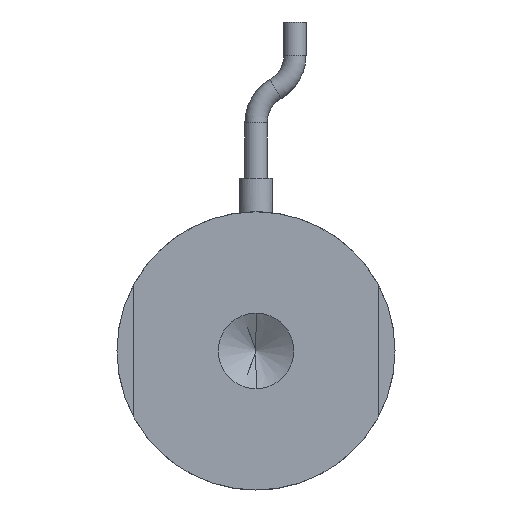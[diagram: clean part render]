
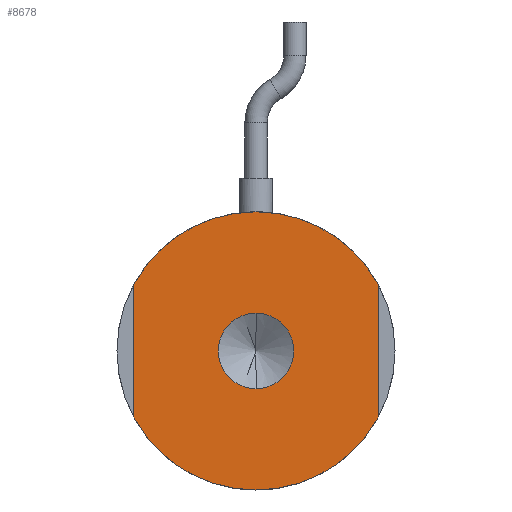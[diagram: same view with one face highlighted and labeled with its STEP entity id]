
A CAD part, front view. The second image highlights one B-rep face of the part: STEP entity #8678.
In plain terms, the highlighted planar face has unit normal (0, -1, 0).
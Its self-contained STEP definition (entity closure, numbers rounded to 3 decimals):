
#97 = DIRECTION ( 'NONE',  ( 0., 0., 1. ) ) ;
#214 = DIRECTION ( 'NONE',  ( 0., 1., 0. ) ) ;
#243 = CARTESIAN_POINT ( 'NONE',  ( 0., 0., 0. ) ) ;
#1031 = CIRCLE ( 'NONE', #18613, 3.4 ) ;
#1158 = CARTESIAN_POINT ( 'NONE',  ( -11., 0., 5.937 ) ) ;
#1917 = VECTOR ( 'NONE', #19139, 1000. ) ;
#1928 = EDGE_LOOP ( 'NONE', ( #12117, #14315 ) ) ;
#1992 = EDGE_CURVE ( 'NONE', #43329, #6384, #31534, .T. ) ;
#2047 = LINE ( 'NONE', #6490, #37797 ) ;
#2211 = EDGE_CURVE ( 'NONE', #37573, #38875, #29406, .T. ) ;
#3403 = CARTESIAN_POINT ( 'NONE',  ( 0., 0., 0. ) ) ;
#3566 = AXIS2_PLACEMENT_3D ( 'NONE', #37014, #16301, #40520 ) ;
#4636 = EDGE_CURVE ( 'NONE', #7298, #31489, #9909, .T. ) ;
#6008 = CIRCLE ( 'NONE', #3566, 12.5 ) ;
#6384 = VERTEX_POINT ( 'NONE', #16529 ) ;
#6490 = CARTESIAN_POINT ( 'NONE',  ( -11., 0., 0. ) ) ;
#6833 = DIRECTION ( 'NONE',  ( 0., 0., 1. ) ) ;
#7133 = DIRECTION ( 'NONE',  ( 0., -1., 0. ) ) ;
#7298 = VERTEX_POINT ( 'NONE', #9602 ) ;
#7434 = DIRECTION ( 'NONE',  ( 0., 0., -1. ) ) ;
#7484 = DIRECTION ( 'NONE',  ( 0., -1., 0. ) ) ;
#7546 = CARTESIAN_POINT ( 'NONE',  ( 0., 0., 0. ) ) ;
#7972 = DIRECTION ( 'NONE',  ( 0., 1., 0. ) ) ;
#8280 = ORIENTED_EDGE ( 'NONE', *, *, #4636, .F. ) ;
#8678 = ADVANCED_FACE ( 'NONE', ( #41909, #16474 ), #25411, .F. ) ;
#9602 = CARTESIAN_POINT ( 'NONE',  ( 11., 0., 5.937 ) ) ;
#9909 = LINE ( 'NONE', #19104, #1917 ) ;
#10633 = VERTEX_POINT ( 'NONE', #29858 ) ;
#11343 = CARTESIAN_POINT ( 'NONE',  ( 0., 0., 0. ) ) ;
#11790 = CARTESIAN_POINT ( 'NONE',  ( 11., 0., -5.937 ) ) ;
#12117 = ORIENTED_EDGE ( 'NONE', *, *, #1992, .F. ) ;
#12945 = CARTESIAN_POINT ( 'NONE',  ( 0., 0., -12.5 ) ) ;
#14315 = ORIENTED_EDGE ( 'NONE', *, *, #38696, .F. ) ;
#14498 = AXIS2_PLACEMENT_3D ( 'NONE', #36834, #16132, #40346 ) ;
#15189 = EDGE_LOOP ( 'NONE', ( #41976, #16550, #34913, #8280, #27920, #19849 ) ) ;
#16132 = DIRECTION ( 'NONE',  ( 0., 1., 0. ) ) ;
#16301 = DIRECTION ( 'NONE',  ( 0., 1., 0. ) ) ;
#16474 = FACE_OUTER_BOUND ( 'NONE', #15189, .T. ) ;
#16529 = CARTESIAN_POINT ( 'NONE',  ( 0., 0., 3.4 ) ) ;
#16550 = ORIENTED_EDGE ( 'NONE', *, *, #36164, .F. ) ;
#17031 = DIRECTION ( 'NONE',  ( 0., 0., 1. ) ) ;
#17676 = EDGE_CURVE ( 'NONE', #31489, #29729, #22818, .T. ) ;
#18613 = AXIS2_PLACEMENT_3D ( 'NONE', #28002, #7133, #31423 ) ;
#19104 = CARTESIAN_POINT ( 'NONE',  ( 11., 0., 0. ) ) ;
#19139 = DIRECTION ( 'NONE',  ( 0., 0., -1. ) ) ;
#19849 = ORIENTED_EDGE ( 'NONE', *, *, #2211, .F. ) ;
#22818 = CIRCLE ( 'NONE', #14498, 12.5 ) ;
#24472 = AXIS2_PLACEMENT_3D ( 'NONE', #7546, #7484, #7434 ) ;
#25411 = PLANE ( 'NONE',  #31133 ) ;
#25611 = CARTESIAN_POINT ( 'NONE',  ( 0., 0., 12.5 ) ) ;
#27706 = DIRECTION ( 'NONE',  ( 0., 1., 0. ) ) ;
#27920 = ORIENTED_EDGE ( 'NONE', *, *, #34461, .F. ) ;
#28002 = CARTESIAN_POINT ( 'NONE',  ( 0., 0., 0. ) ) ;
#29406 = CIRCLE ( 'NONE', #36023, 12.5 ) ;
#29729 = VERTEX_POINT ( 'NONE', #12945 ) ;
#29858 = CARTESIAN_POINT ( 'NONE',  ( -11., 0., -5.937 ) ) ;
#31133 = AXIS2_PLACEMENT_3D ( 'NONE', #11343, #7972, #32282 ) ;
#31423 = DIRECTION ( 'NONE',  ( 0., 0., -1. ) ) ;
#31429 = CIRCLE ( 'NONE', #33841, 12.5 ) ;
#31489 = VERTEX_POINT ( 'NONE', #11790 ) ;
#31534 = CIRCLE ( 'NONE', #24472, 3.4 ) ;
#32282 = DIRECTION ( 'NONE',  ( 0., 0., 1. ) ) ;
#33841 = AXIS2_PLACEMENT_3D ( 'NONE', #3403, #27706, #6833 ) ;
#34461 = EDGE_CURVE ( 'NONE', #38875, #7298, #6008, .T. ) ;
#34913 = ORIENTED_EDGE ( 'NONE', *, *, #17676, .F. ) ;
#36023 = AXIS2_PLACEMENT_3D ( 'NONE', #243, #214, #97 ) ;
#36164 = EDGE_CURVE ( 'NONE', #29729, #10633, #31429, .T. ) ;
#36834 = CARTESIAN_POINT ( 'NONE',  ( 0., 0., 0. ) ) ;
#37014 = CARTESIAN_POINT ( 'NONE',  ( 0., 0., 0. ) ) ;
#37573 = VERTEX_POINT ( 'NONE', #1158 ) ;
#37797 = VECTOR ( 'NONE', #17031, 1000. ) ;
#38696 = EDGE_CURVE ( 'NONE', #6384, #43329, #1031, .T. ) ;
#38875 = VERTEX_POINT ( 'NONE', #25611 ) ;
#39542 = CARTESIAN_POINT ( 'NONE',  ( 0., 0., -3.4 ) ) ;
#40346 = DIRECTION ( 'NONE',  ( 0., 0., 1. ) ) ;
#40520 = DIRECTION ( 'NONE',  ( 0., 0., 1. ) ) ;
#41795 = EDGE_CURVE ( 'NONE', #10633, #37573, #2047, .T. ) ;
#41909 = FACE_BOUND ( 'NONE', #1928, .T. ) ;
#41976 = ORIENTED_EDGE ( 'NONE', *, *, #41795, .F. ) ;
#43329 = VERTEX_POINT ( 'NONE', #39542 ) ;
